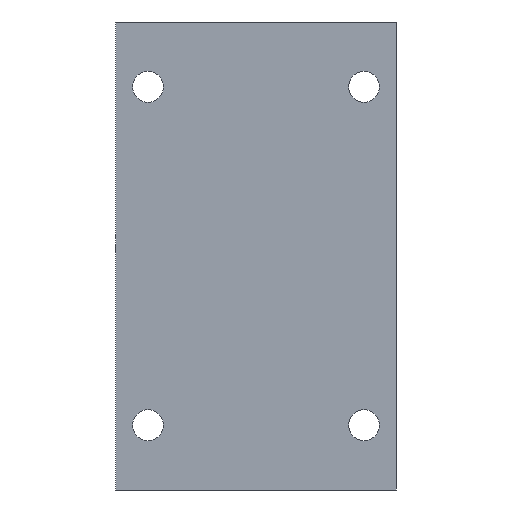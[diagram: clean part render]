
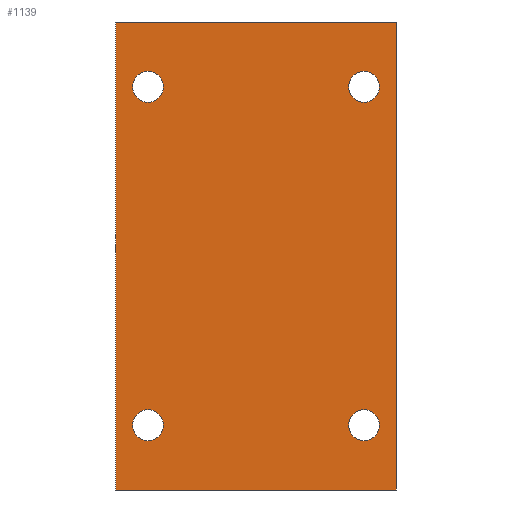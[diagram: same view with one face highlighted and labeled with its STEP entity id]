
A CAD part, front view. The second image highlights one B-rep face of the part: STEP entity #1139.
In plain terms, the highlighted planar face has unit normal (0, -1, 0).
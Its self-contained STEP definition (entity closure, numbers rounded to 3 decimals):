
#13 = AXIS2_PLACEMENT_3D ( 'NONE', #2389, #2453, #911 ) ;
#45 = DIRECTION ( 'NONE',  ( 1., 0., 0. ) ) ;
#54 = ORIENTED_EDGE ( 'NONE', *, *, #473, .F. ) ;
#73 = LINE ( 'NONE', #2709, #3347 ) ;
#84 = CARTESIAN_POINT ( 'NONE',  ( 30., -25.5, 51.3 ) ) ;
#103 = VERTEX_POINT ( 'NONE', #84 ) ;
#122 = CARTESIAN_POINT ( 'NONE',  ( 30., -25.5, -47. ) ) ;
#132 = AXIS2_PLACEMENT_3D ( 'NONE', #2240, #3279, #947 ) ;
#203 = DIRECTION ( 'NONE',  ( 0., 0., -1. ) ) ;
#267 = ORIENTED_EDGE ( 'NONE', *, *, #1697, .F. ) ;
#272 = ORIENTED_EDGE ( 'NONE', *, *, #2930, .F. ) ;
#330 = FACE_BOUND ( 'NONE', #1504, .T. ) ;
#345 = AXIS2_PLACEMENT_3D ( 'NONE', #2928, #1388, #3207 ) ;
#384 = ORIENTED_EDGE ( 'NONE', *, *, #3354, .F. ) ;
#410 = VERTEX_POINT ( 'NONE', #2482 ) ;
#428 = VERTEX_POINT ( 'NONE', #2460 ) ;
#449 = CARTESIAN_POINT ( 'NONE',  ( 30., -25.5, 42.7 ) ) ;
#473 = EDGE_CURVE ( 'NONE', #428, #3374, #636, .T. ) ;
#489 = EDGE_CURVE ( 'NONE', #410, #2874, #73, .T. ) ;
#520 = VERTEX_POINT ( 'NONE', #3248 ) ;
#533 = DIRECTION ( 'NONE',  ( 0., 0., -1. ) ) ;
#578 = VECTOR ( 'NONE', #2912, 1000. ) ;
#592 = PLANE ( 'NONE',  #13 ) ;
#636 = CIRCLE ( 'NONE', #1391, 4.3 ) ;
#664 = DIRECTION ( 'NONE',  ( 0., -1., 0. ) ) ;
#678 = AXIS2_PLACEMENT_3D ( 'NONE', #2632, #2378, #1071 ) ;
#704 = ORIENTED_EDGE ( 'NONE', *, *, #856, .F. ) ;
#715 = CARTESIAN_POINT ( 'NONE',  ( -30., -25.5, -42.7 ) ) ;
#717 = EDGE_CURVE ( 'NONE', #2649, #520, #1376, .T. ) ;
#804 = CARTESIAN_POINT ( 'NONE',  ( 39., -25.5, 65. ) ) ;
#828 = EDGE_CURVE ( 'NONE', #2950, #103, #890, .T. ) ;
#841 = FACE_BOUND ( 'NONE', #1879, .T. ) ;
#856 = EDGE_CURVE ( 'NONE', #1569, #1948, #2141, .T. ) ;
#857 = FACE_BOUND ( 'NONE', #2780, .T. ) ;
#890 = CIRCLE ( 'NONE', #2516, 4.3 ) ;
#911 = DIRECTION ( 'NONE',  ( 0., 0., 1. ) ) ;
#947 = DIRECTION ( 'NONE',  ( 0., 0., -1. ) ) ;
#957 = CIRCLE ( 'NONE', #2107, 4.3 ) ;
#977 = ORIENTED_EDGE ( 'NONE', *, *, #1508, .F. ) ;
#1071 = DIRECTION ( 'NONE',  ( 0., 0., -1. ) ) ;
#1077 = CARTESIAN_POINT ( 'NONE',  ( -30., -25.5, 51.3 ) ) ;
#1139 = ADVANCED_FACE ( 'NONE', ( #1637, #857, #2938, #841, #330 ), #592, .F. ) ;
#1141 = DIRECTION ( 'NONE',  ( 0., -1., 0. ) ) ;
#1157 = DIRECTION ( 'NONE',  ( 0., 0., -1. ) ) ;
#1180 = LINE ( 'NONE', #2216, #1721 ) ;
#1220 = EDGE_CURVE ( 'NONE', #520, #2649, #2410, .T. ) ;
#1291 = CARTESIAN_POINT ( 'NONE',  ( 39., -25.5, -65. ) ) ;
#1372 = CARTESIAN_POINT ( 'NONE',  ( -30., -25.5, 47. ) ) ;
#1376 = CIRCLE ( 'NONE', #678, 4.3 ) ;
#1388 = DIRECTION ( 'NONE',  ( 0., -1., 0. ) ) ;
#1391 = AXIS2_PLACEMENT_3D ( 'NONE', #1372, #1141, #1960 ) ;
#1397 = ORIENTED_EDGE ( 'NONE', *, *, #1827, .F. ) ;
#1504 = EDGE_LOOP ( 'NONE', ( #2567, #272 ) ) ;
#1508 = EDGE_CURVE ( 'NONE', #3374, #428, #2098, .T. ) ;
#1537 = CARTESIAN_POINT ( 'NONE',  ( 30., -25.5, 47. ) ) ;
#1569 = VERTEX_POINT ( 'NONE', #715 ) ;
#1593 = ORIENTED_EDGE ( 'NONE', *, *, #717, .F. ) ;
#1637 = FACE_OUTER_BOUND ( 'NONE', #3033, .T. ) ;
#1662 = CIRCLE ( 'NONE', #132, 4.3 ) ;
#1697 = EDGE_CURVE ( 'NONE', #1948, #1569, #1662, .T. ) ;
#1721 = VECTOR ( 'NONE', #3251, 1000. ) ;
#1785 = EDGE_LOOP ( 'NONE', ( #54, #977 ) ) ;
#1827 = EDGE_CURVE ( 'NONE', #2730, #2592, #2115, .T. ) ;
#1830 = AXIS2_PLACEMENT_3D ( 'NONE', #2993, #2251, #2496 ) ;
#1861 = CARTESIAN_POINT ( 'NONE',  ( -39., -25.5, 65. ) ) ;
#1879 = EDGE_LOOP ( 'NONE', ( #267, #704 ) ) ;
#1948 = VERTEX_POINT ( 'NONE', #2883 ) ;
#1960 = DIRECTION ( 'NONE',  ( 0., 0., -1. ) ) ;
#1986 = AXIS2_PLACEMENT_3D ( 'NONE', #122, #2174, #533 ) ;
#2098 = CIRCLE ( 'NONE', #1830, 4.3 ) ;
#2107 = AXIS2_PLACEMENT_3D ( 'NONE', #3048, #2267, #203 ) ;
#2115 = LINE ( 'NONE', #804, #578 ) ;
#2121 = ORIENTED_EDGE ( 'NONE', *, *, #489, .T. ) ;
#2141 = CIRCLE ( 'NONE', #345, 4.3 ) ;
#2172 = CARTESIAN_POINT ( 'NONE',  ( -39., -25.5, -65. ) ) ;
#2174 = DIRECTION ( 'NONE',  ( 0., -1., 0. ) ) ;
#2216 = CARTESIAN_POINT ( 'NONE',  ( -39., -25.5, -65. ) ) ;
#2240 = CARTESIAN_POINT ( 'NONE',  ( -30., -25.5, -47. ) ) ;
#2251 = DIRECTION ( 'NONE',  ( 0., -1., 0. ) ) ;
#2267 = DIRECTION ( 'NONE',  ( 0., -1., 0. ) ) ;
#2378 = DIRECTION ( 'NONE',  ( 0., -1., 0. ) ) ;
#2389 = CARTESIAN_POINT ( 'NONE',  ( -39., -25.5, 65. ) ) ;
#2397 = ORIENTED_EDGE ( 'NONE', *, *, #1220, .F. ) ;
#2410 = CIRCLE ( 'NONE', #1986, 4.3 ) ;
#2453 = DIRECTION ( 'NONE',  ( 0., 1., 0. ) ) ;
#2460 = CARTESIAN_POINT ( 'NONE',  ( -30., -25.5, 42.7 ) ) ;
#2482 = CARTESIAN_POINT ( 'NONE',  ( -39., -25.5, 65. ) ) ;
#2496 = DIRECTION ( 'NONE',  ( 0., 0., -1. ) ) ;
#2516 = AXIS2_PLACEMENT_3D ( 'NONE', #1537, #664, #3170 ) ;
#2538 = VECTOR ( 'NONE', #45, 1000. ) ;
#2567 = ORIENTED_EDGE ( 'NONE', *, *, #828, .F. ) ;
#2592 = VERTEX_POINT ( 'NONE', #1291 ) ;
#2632 = CARTESIAN_POINT ( 'NONE',  ( 30., -25.5, -47. ) ) ;
#2649 = VERTEX_POINT ( 'NONE', #2683 ) ;
#2683 = CARTESIAN_POINT ( 'NONE',  ( 30., -25.5, -42.7 ) ) ;
#2709 = CARTESIAN_POINT ( 'NONE',  ( -39., -25.5, 65. ) ) ;
#2730 = VERTEX_POINT ( 'NONE', #2908 ) ;
#2780 = EDGE_LOOP ( 'NONE', ( #2397, #1593 ) ) ;
#2874 = VERTEX_POINT ( 'NONE', #2172 ) ;
#2883 = CARTESIAN_POINT ( 'NONE',  ( -30., -25.5, -51.3 ) ) ;
#2908 = CARTESIAN_POINT ( 'NONE',  ( 39., -25.5, 65. ) ) ;
#2912 = DIRECTION ( 'NONE',  ( 0., 0., -1. ) ) ;
#2928 = CARTESIAN_POINT ( 'NONE',  ( -30., -25.5, -47. ) ) ;
#2930 = EDGE_CURVE ( 'NONE', #103, #2950, #957, .T. ) ;
#2938 = FACE_BOUND ( 'NONE', #1785, .T. ) ;
#2950 = VERTEX_POINT ( 'NONE', #449 ) ;
#2993 = CARTESIAN_POINT ( 'NONE',  ( -30., -25.5, 47. ) ) ;
#3033 = EDGE_LOOP ( 'NONE', ( #3189, #1397, #384, #2121 ) ) ;
#3048 = CARTESIAN_POINT ( 'NONE',  ( 30., -25.5, 47. ) ) ;
#3170 = DIRECTION ( 'NONE',  ( 0., 0., -1. ) ) ;
#3176 = LINE ( 'NONE', #1861, #2538 ) ;
#3189 = ORIENTED_EDGE ( 'NONE', *, *, #3210, .T. ) ;
#3207 = DIRECTION ( 'NONE',  ( 0., 0., -1. ) ) ;
#3210 = EDGE_CURVE ( 'NONE', #2874, #2592, #1180, .T. ) ;
#3248 = CARTESIAN_POINT ( 'NONE',  ( 30., -25.5, -51.3 ) ) ;
#3251 = DIRECTION ( 'NONE',  ( 1., 0., 0. ) ) ;
#3279 = DIRECTION ( 'NONE',  ( 0., -1., 0. ) ) ;
#3347 = VECTOR ( 'NONE', #1157, 1000. ) ;
#3354 = EDGE_CURVE ( 'NONE', #410, #2730, #3176, .T. ) ;
#3374 = VERTEX_POINT ( 'NONE', #1077 ) ;
